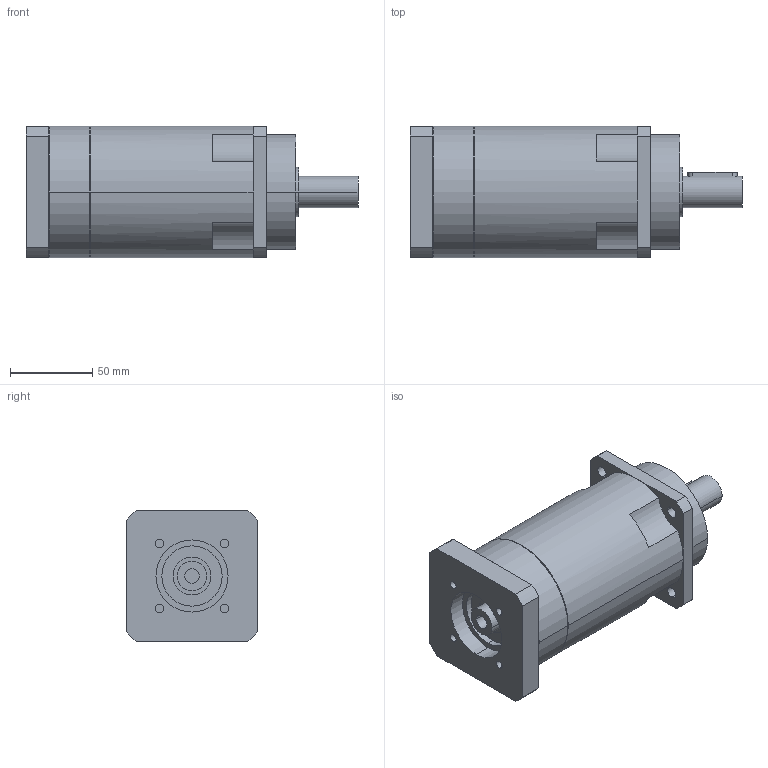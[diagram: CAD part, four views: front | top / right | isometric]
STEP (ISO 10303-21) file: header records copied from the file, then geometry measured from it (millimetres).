
FILE_DESCRIPTION(('CoCreate Modeling STEP Export'),'2;1');
FILE_NAME('GPR100_ig-48-64-80-100-120-144-180-216_19_B5_9_P31.stp','2014-08-26T13:05:29',(''),(''),'CoCreate Modeling STEP processor for AP214 (Solid Model)','CoCreate Modeling 16.00C 25-Feb-2009 (C) Parametric Technology GmbH','');
FILE_SCHEMA(('AUTOMOTIVE_DESIGN { 1 0 10303 214 1 1 1 1 }'));
Length unit declared in the file: millimetre
Products named in the file (2): GPR100_ig-48-64-80-100-120-144-180-216_19_B5_9_P31
Assembly tree (1 placements, depth 2):
  GPR100_ig-48-64-80-100-120-144-180-216_19_B5_9_P31
    GPR100_ig-48-64-80-100-120-144-180-216_19_B5_9_P31
Bounding box: 202.4 x 80 x 80 mm (x, y, z)
Volume: 815906.1 mm3; surface area: 65420.1 mm2
Topology: 1 solids, 1 shells, 93 faces, 246 edges, 168 vertices
Faces by surface type: cylinder 52, plane 35, cone 6
Entity records: 2611 total; most frequent: ORIENTED_EDGE 488, CARTESIAN_POINT 473, DIRECTION 386, EDGE_CURVE 244, VERTEX_POINT 168, AXIS2_PLACEMENT_3D 145, EDGE_LOOP 116, VECTOR 96
